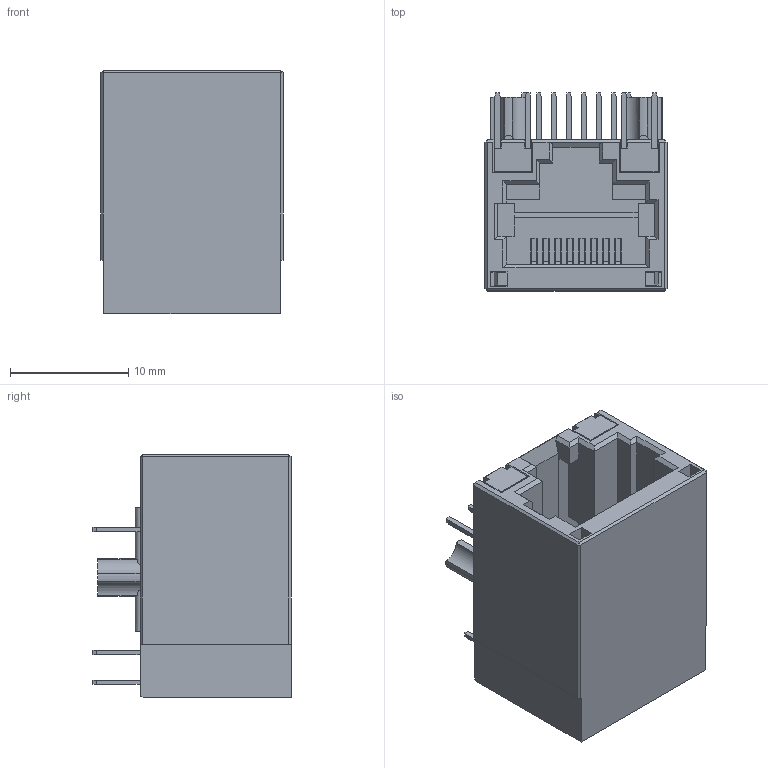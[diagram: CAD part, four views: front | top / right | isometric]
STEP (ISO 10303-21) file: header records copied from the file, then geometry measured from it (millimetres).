
FILE_DESCRIPTION((''),'2;1');
FILE_NAME('DGKYD111B035JB1A1D','2025-02-12T09:50:25',('DGKYD'),(''),'CREO PARAMETRIC BY PTC INC, 2019010','CREO PARAMETRIC BY PTC INC, 2019010','');
FILE_SCHEMA(('CONFIG_CONTROL_DESIGN'));
Length unit declared in the file: millimetre
Products named in the file (1): DGKYD111B035JB1A1D
Bounding box: 15.44 x 16.8 x 20.65 mm (x, y, z)
Volume: 2821.3 mm3; surface area: 3604.6 mm2
Topology: 1 solids, 1 shells, 759 faces, 2351 edges, 1545 vertices
Faces by surface type: plane 631, cylinder 80, extrusion 48
Entity records: 26520 total; most frequent: CARTESIAN_POINT 5420, ORIENTED_EDGE 4702, DIRECTION 3933, EDGE_CURVE 2351, VECTOR 2063, LINE 2015, VERTEX_POINT 1545, AXIS2_PLACEMENT_3D 935
